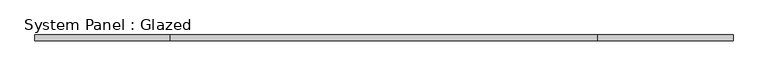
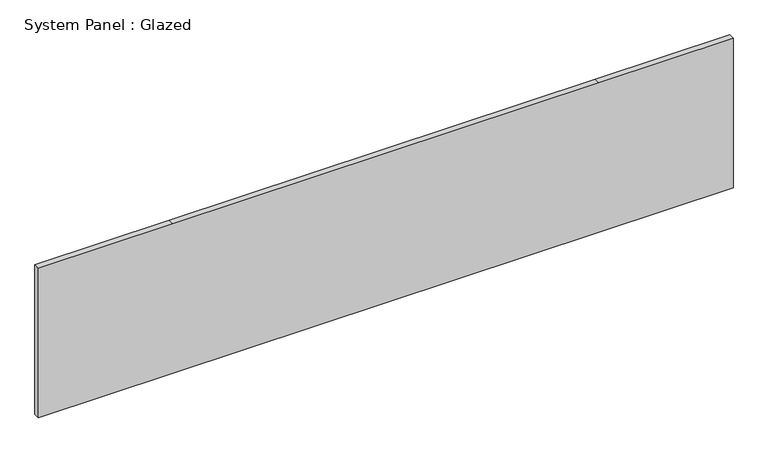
"""IFC4 building model written with IfcOpenShell, lengths in millimetres: plate geometry, System Panel : Glazed."""

from ifc_helpers import new_model, si_unit, frame, origin, place, context, project, spatial, polyline, outline, extrude, source, transform, mapped, element, save


def system_panel_glazed_88a41a63(model_context):
    return source(origin(), model_context, "Body", "SweptSolid", [
        extrude(outline(polyline([(0.0, -1492.25), (0.0, -914.4), (0.0, 914.4), (0.0, 1492.25), (678.75, 1492.25), (678.75, 914.4), (678.75, -914.4), (678.75, -1492.25), (0.0, -1492.25)])), frame((0.0, 19.05, 0.0), z_axis=(0.0, 1.0, 0.0), x_axis=(0.0, 0.0, 1.0)), (0.0, 0.0, 1.0), 25.4),
    ])


if __name__ == "__main__":
    model = new_model("IFC4")
    model_context = context("Model", 3, world=origin())
    ifc_project = project(units=[si_unit("LENGTHUNIT", "METRE", prefix="MILLI")], contexts=[model_context])
    site = spatial("IfcSite", under=ifc_project)
    building = spatial("IfcBuilding", under=site)
    placement = place(None, origin())
    system_panel_glazed_shape = system_panel_glazed_88a41a63(model_context)
    element("IfcPlate", 1, ObjectType="System Panel : Glazed", at=placement, inside=building, context=model_context, shape_type="MappedRepresentation", body=[
        mapped(system_panel_glazed_shape, transform((0.0, 0.0, 0.0), x_axis=(1.0, 0.0, 0.0), y_axis=(0.0, 1.0, 0.0), z_axis=(0.0, 0.0, 1.0))),
    ])
    save(model, "model.ifc")
